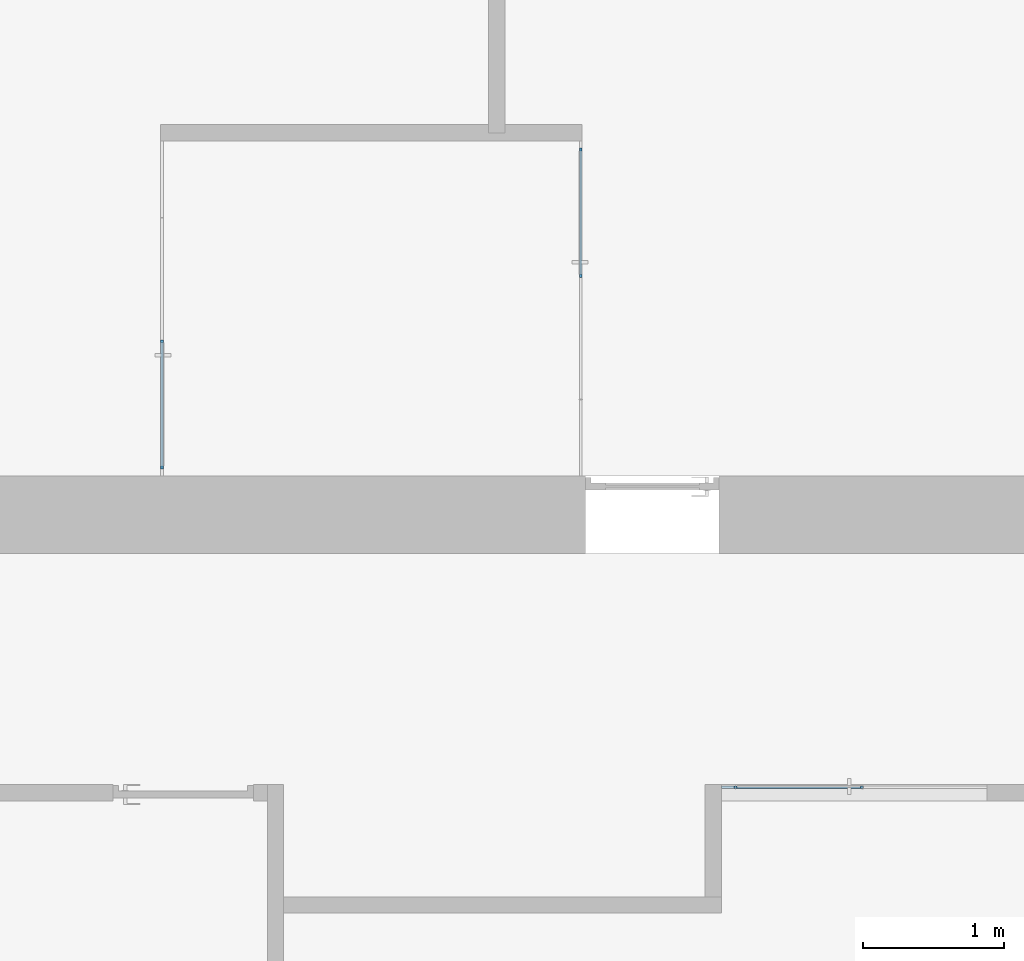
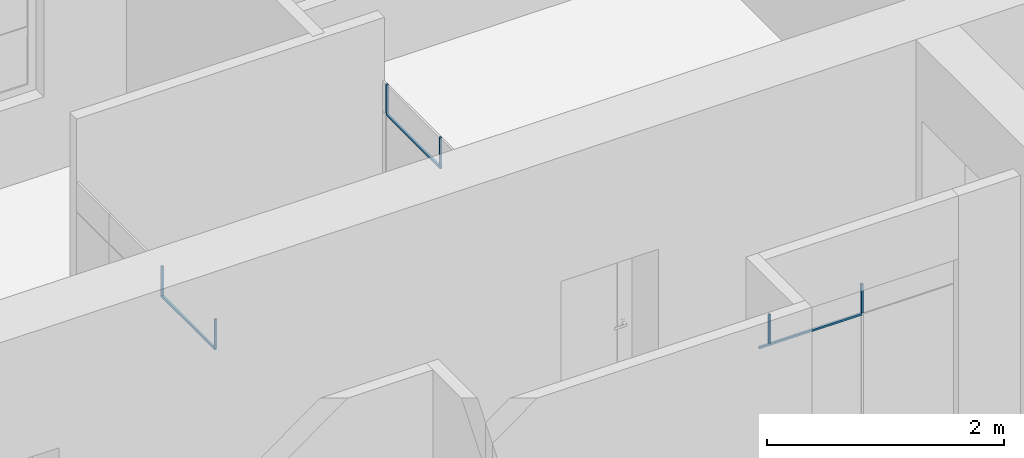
# One storey, part 10 of 66: 12 members, 3 elements without a shape of their own.
"""IFC2X3 building model written with IfcOpenShell, lengths in millimetres."""

import ifcopenshell
import ifcopenshell.guid

model = None  # the IFC model being written
_history = None  # IfcOwnerHistory: only IFC2X3 demands one
_inside = {}  # id of a spatial element -> (the spatial element, [elements in it])
_under = {}  # id of a project, library or spatial element -> (it, [spatial elements below it])
_declared = {}  # id of a project -> (the project, [libraries it declares])
_typed = {}  # id of a type object -> (the type object, [elements of that type])
_made_of = {}  # id of a material, layer set ... -> (it, [elements and type objects made of it])


def new_model(schema):
    """Start an empty IFC model of exactly this schema.

    Asked for "IFC4X3", IfcOpenShell would pick the latest addendum, in which some entities
    have other attributes; the version numbers below select the first issue.
    IFC2X3 requires an IfcOwnerHistory on every rooted entity: one is made here for all.
    """
    global model, _history
    if schema == "IFC4X3":
        model = ifcopenshell.file(schema_version=(4, 3, 0, 0))
    else:
        model = ifcopenshell.file(schema=schema)
    _inside.clear()
    _under.clear()
    _declared.clear()
    _typed.clear()
    _made_of.clear()
    _history = None
    if model.schema == "IFC2X3":
        org = make("IfcOrganization", Name="unknown")
        user = make(
            "IfcPersonAndOrganization",
            ThePerson=make("IfcPerson", FamilyName="unknown"),
            TheOrganization=org,
        )
        app = make(
            "IfcApplication",
            ApplicationDeveloper=org,
            Version="unknown",
            ApplicationFullName="unknown",
            ApplicationIdentifier="unknown",
        )
        _history = make(
            "IfcOwnerHistory",
            OwningUser=user,
            OwningApplication=app,
            ChangeAction="ADDED",
            CreationDate=0,
        )
    return model


def make(cls, **values):
    """One entity of the class cls with the attributes given. An attribute that is None is left unset."""
    return model.create_entity(
        cls, **{name: value for name, value in values.items() if value is not None}
    )


def entity(cls, *values):
    """Any entity or typed value of the class cls, its attributes in the order of the schema. None: left unset."""
    e = model.create_entity(cls)
    for i, value in enumerate(values):
        if value is not None:
            e[i] = value
    return e


def rooted(cls, **values):
    """An entity with a GlobalId (a new one), such as an element, a storey or a relation."""
    return make(cls, GlobalId=ifcopenshell.guid.new(), OwnerHistory=_history, **values)


def si_unit(unit_type, name, prefix=None):
    """IfcSIUnit, for example si_unit("LENGTHUNIT", "METRE", prefix="MILLI")."""
    return make("IfcSIUnit", UnitType=unit_type, Prefix=prefix, Name=name)


def converted_unit(unit_type, name, factor, base, dimensions=None, offset=None):
    """IfcConversionBasedUnit, such as the inch: factor (a typed value) times the base unit."""
    return make(
        "IfcConversionBasedUnit"
        if offset is None
        else "IfcConversionBasedUnitWithOffset",
        ConversionOffset=offset,
        Dimensions=None
        if dimensions is None
        else entity("IfcDimensionalExponents", *dimensions),
        UnitType=unit_type,
        Name=name,
        ConversionFactor=make(
            "IfcMeasureWithUnit", ValueComponent=factor, UnitComponent=base
        ),
    )


def derived_unit(unit_type, elements):
    """IfcDerivedUnit: a product of units, each with its exponent."""
    return make(
        "IfcDerivedUnit",
        Elements=[
            make("IfcDerivedUnitElement", Unit=unit, Exponent=power)
            for unit, power in elements
        ],
        UnitType=unit_type,
    )


def assignment(units):
    """IfcUnitAssignment: the units of a project."""
    return None if units is None else make("IfcUnitAssignment", Units=units)


def point(xyz):
    """IfcCartesianPoint."""
    return None if xyz is None else make("IfcCartesianPoint", Coordinates=xyz)


def direction(xyz):
    """IfcDirection."""
    return None if xyz is None else make("IfcDirection", DirectionRatios=xyz)


def frame(location, z_axis=None, x_axis=None):
    """IfcAxis2Placement3D, a coordinate frame: its origin and axes. An axis left out is left unset."""
    return make(
        "IfcAxis2Placement3D",
        Location=point(location),
        Axis=direction(z_axis),
        RefDirection=direction(x_axis),
    )


def frame_2d(location, x_axis=None):
    """IfcAxis2Placement2D, a coordinate frame in the plane: its origin and x axis."""
    return make(
        "IfcAxis2Placement2D", Location=point(location), RefDirection=direction(x_axis)
    )


def origin():
    """The frame at (0, 0, 0) with its axes left unset."""
    return frame((0.0, 0.0, 0.0))


def origin_2d_with_axis():
    """The frame at (0, 0) in the plane with the x axis (1, 0) written out."""
    return frame_2d((0.0, 0.0), x_axis=(1.0, 0.0))


def place(relative_to, where):
    """IfcLocalPlacement: puts the frame where relative to a parent placement (None: the world)."""
    return make(
        "IfcLocalPlacement", PlacementRelTo=relative_to, RelativePlacement=where
    )


def context(
    kind, dimensions, precision=None, world=None, true_north=None, identifier=None
):
    """IfcGeometricRepresentationContext, for example the 3D "Model" context."""
    return make(
        "IfcGeometricRepresentationContext",
        ContextIdentifier=identifier,
        ContextType=kind,
        CoordinateSpaceDimension=dimensions,
        Precision=precision,
        WorldCoordinateSystem=world,
        TrueNorth=true_north,
    )


def subcontext(parent, identifier, kind, view, scale=None):
    """IfcGeometricRepresentationSubContext, for example "Body" below "Model"."""
    return make(
        "IfcGeometricRepresentationSubContext",
        ContextIdentifier=identifier,
        ContextType=kind,
        ParentContext=parent,
        TargetScale=scale,
        TargetView=view,
    )


def project(units=None, contexts=None):
    """IfcProject with its units and contexts."""
    return rooted(
        "IfcProject",
        Name="project",
        RepresentationContexts=contexts,
        UnitsInContext=assignment(units),
    )


def spatial(cls, under=None, at=None, **own):
    """A site, building, storey or space (cls), placed at a placement, below another one or the project."""
    s = rooted(cls, ObjectPlacement=at, **own)
    if under is not None:
        _under.setdefault(under.id(), (under, []))[1].append(s)
    return s


def profile(cls, at=None, kind="AREA", **sizes):
    """A parametric profile (cls). Its sizes go by their IFC names, for example OverallWidth=200.0."""
    return make(cls, ProfileType=kind, Position=at, **sizes)


def rectangle(**sizes):
    """IfcRectangleProfileDef."""
    return profile("IfcRectangleProfileDef", **sizes)


def extrude(swept, where, along, depth):
    """IfcExtrudedAreaSolid: the profile swept, set in the frame where, extruded along a direction by depth."""
    return make(
        "IfcExtrudedAreaSolid",
        SweptArea=swept,
        Position=where,
        ExtrudedDirection=direction(along),
        Depth=depth,
    )


def shape(context_of_items, identifier, shape_type, items):
    """IfcShapeRepresentation: the items that make up one representation, for example the "Body"."""
    return make(
        "IfcShapeRepresentation",
        ContextOfItems=context_of_items,
        RepresentationIdentifier=identifier,
        RepresentationType=shape_type,
        Items=items,
    )


def source(mapping_origin, context_of_items, identifier, shape_type, items):
    """IfcRepresentationMap: a shape defined once, which mapped items show again and again."""
    return make(
        "IfcRepresentationMap",
        MappingOrigin=mapping_origin,
        MappedRepresentation=shape(context_of_items, identifier, shape_type, items),
    )


def transform(
    local_origin,
    x_axis=None,
    y_axis=None,
    z_axis=None,
    scale=None,
    scale2=None,
    scale3=None,
    uniform=True,
):
    """IfcCartesianTransformationOperator3D, or its non-uniform kind. x_axis, y_axis, z_axis: its Axis1, 2, 3."""
    if uniform:
        return make(
            "IfcCartesianTransformationOperator3D",
            Axis1=direction(x_axis),
            Axis2=direction(y_axis),
            LocalOrigin=point(local_origin),
            Scale=scale,
            Axis3=direction(z_axis),
        )
    return make(
        "IfcCartesianTransformationOperator3DnonUniform",
        Axis1=direction(x_axis),
        Axis2=direction(y_axis),
        LocalOrigin=point(local_origin),
        Scale=scale,
        Axis3=direction(z_axis),
        Scale2=scale2,
        Scale3=scale3,
    )


def mapped(mapping_source, mapping_target):
    """IfcMappedItem: shows the shape of a source again, moved by a transform."""
    return make(
        "IfcMappedItem", MappingSource=mapping_source, MappingTarget=mapping_target
    )


def material(Name=None, Category=None):
    """IfcMaterial."""
    return make("IfcMaterial", Name=Name, Category=Category)


def made_of(thing, what):
    """Note that an element or type object is made of a material, layer set ...; save() writes the relation."""
    if what is not None:
        _made_of.setdefault(what.id(), (what, []))[1].append(thing)
    return thing


def type_object(cls, material=None, **own):
    """A type object (cls), such as IfcWallType, which elements share."""
    return made_of(rooted(cls, **own), material)


def type_shapes(of_type, sources):
    """Give a type object the sources (RepresentationMaps) that its elements show as mapped items."""
    of_type.RepresentationMaps = sources


def element(
    cls,
    number,
    at=None,
    inside=None,
    cuts=None,
    type_object=None,
    material=None,
    context=None,
    identifier="Body",
    shape_type=None,
    held_by="IfcProductDefinitionShape",
    body=None,
    shapes=None,
    **own,
):
    """One element of the class cls, such as IfcWall. Its Tag is "e" and its number.

    at: its placement. inside: the storey or other place that contains it. cuts: it is an
    opening in that element (IfcRelVoidsElement). A single representation is given by context,
    identifier, shape_type and body (its items); several are given by shapes. held_by: the class
    of the entity that holds the representations. save() writes the other relations.
    """
    e = rooted(cls, Tag="e%d" % number, ObjectPlacement=at, **own)
    if body is not None:
        shapes = [shape(context, identifier, shape_type, body)]
    if shapes is not None:
        e.Representation = make(held_by, Representations=shapes)
    if inside is not None:
        _inside.setdefault(inside.id(), (inside, []))[1].append(e)
    if cuts is not None:
        rooted(
            "IfcRelVoidsElement", RelatingBuildingElement=cuts, RelatedOpeningElement=e
        )
    if type_object is not None:
        _typed.setdefault(type_object.id(), (type_object, []))[1].append(e)
    return made_of(e, material)


def aggregate(whole, parts):
    """IfcRelAggregates: a whole, such as a stair, and the parts it consists of."""
    return rooted("IfcRelAggregates", RelatingObject=whole, RelatedObjects=parts)


def save(model, path):
    """Write the relations noted so far, then the file.

    IfcRelAggregates (storeys below a building ...), IfcRelContainedInSpatialStructure (elements
    in a storey), IfcRelDefinesByType, IfcRelAssociatesMaterial and IfcRelDeclares: one each for
    every whole, place, type object, material and project.
    """
    for whole, parts in _under.values():
        aggregate(whole, parts)
    for where, things in _inside.values():
        rooted(
            "IfcRelContainedInSpatialStructure",
            RelatedElements=things,
            RelatingStructure=where,
        )
    for kind, things in _typed.values():
        rooted("IfcRelDefinesByType", RelatedObjects=things, RelatingType=kind)
    for what, things in _made_of.values():
        rooted("IfcRelAssociatesMaterial", RelatedObjects=things, RelatingMaterial=what)
    for by, libraries in _declared.values():
        rooted("IfcRelDeclares", RelatingContext=by, RelatedDefinitions=libraries)
    model.write(path)


model = new_model("IFC2X3")

# Units and contexts
model_context = context("Model", 3, precision=0.01, world=origin(), true_north=direction((6.12303176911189e-17, 1.0)))
body_context = subcontext(model_context, "Body", "Model", "MODEL_VIEW")
ifc_project = project(units=[si_unit("LENGTHUNIT", "METRE", prefix="MILLI"), si_unit("AREAUNIT", "SQUARE_METRE"), si_unit("VOLUMEUNIT", "CUBIC_METRE"), converted_unit("PLANEANGLEUNIT", "DEGREE", entity("IfcRatioMeasure", 0.0174532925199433), si_unit("PLANEANGLEUNIT", "RADIAN"), dimensions=[0, 0, 0, 0, 0, 0, 0]), si_unit("MASSUNIT", "GRAM", prefix="KILO"), derived_unit("MASSDENSITYUNIT", [(si_unit("MASSUNIT", "GRAM", prefix="KILO"), 1), (si_unit("LENGTHUNIT", "METRE"), -3)]), si_unit("TIMEUNIT", "SECOND"), si_unit("FREQUENCYUNIT", "HERTZ"), si_unit("THERMODYNAMICTEMPERATUREUNIT", "DEGREE_CELSIUS"), derived_unit("THERMALTRANSMITTANCEUNIT", [(si_unit("MASSUNIT", "GRAM", prefix="KILO"), 1), (si_unit("THERMODYNAMICTEMPERATUREUNIT", "KELVIN"), -1), (si_unit("TIMEUNIT", "SECOND"), -3)]), derived_unit("VOLUMETRICFLOWRATEUNIT", [(si_unit("LENGTHUNIT", "METRE"), 3), (si_unit("TIMEUNIT", "SECOND"), -1)]), si_unit("ELECTRICCURRENTUNIT", "AMPERE"), si_unit("ELECTRICVOLTAGEUNIT", "VOLT"), si_unit("POWERUNIT", "WATT"), si_unit("FORCEUNIT", "NEWTON", prefix="KILO"), si_unit("ILLUMINANCEUNIT", "LUX"), si_unit("LUMINOUSFLUXUNIT", "LUMEN"), si_unit("LUMINOUSINTENSITYUNIT", "CANDELA"), derived_unit("USERDEFINED", [(si_unit("MASSUNIT", "GRAM", prefix="KILO"), -1), (si_unit("LENGTHUNIT", "METRE"), -2), (si_unit("TIMEUNIT", "SECOND"), 3), (si_unit("LUMINOUSFLUXUNIT", "LUMEN"), 1)]), derived_unit("LINEARVELOCITYUNIT", [(si_unit("LENGTHUNIT", "METRE"), 1), (si_unit("TIMEUNIT", "SECOND"), -1)]), si_unit("PRESSUREUNIT", "PASCAL"), derived_unit("USERDEFINED", [(si_unit("LENGTHUNIT", "METRE"), -2), (si_unit("MASSUNIT", "GRAM", prefix="KILO"), 1), (si_unit("TIMEUNIT", "SECOND"), -2)])], contexts=[model_context])

# Site, building, storey
site_placement = place(None, frame((-151.875543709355, 2715.0, 0.0)))
site = spatial("IfcSite", under=ifc_project, at=site_placement, Name="Surface", CompositionType="ELEMENT")
building_placement = place(site_placement, origin())
building = spatial("IfcBuilding", under=site, at=building_placement, CompositionType="ELEMENT")
storey_placement = place(building_placement, frame((0.0, 0.0, 3350.0)))
storey = spatial("IfcBuildingStorey", under=building, at=storey_placement, Name="2 korrus", CompositionType="ELEMENT", Elevation=3350.00000000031)

# Curtain wall, members
curtain_wall_type_1 = type_object("IfcCurtainWallType", Name="Curtain Wall:Klaassein KLS-11", PredefinedType="NOTDEFINED")
curtain_wall_1_placement = place(storey_placement, frame((0.0, 0.0, -3350.0)))
curtain_wall_1 = element("IfcCurtainWall", 1, at=curtain_wall_1_placement, inside=storey, type_object=curtain_wall_type_1, Name="Curtain Wall:Klaassein KLS-11", ObjectType="Curtain Wall:Klaassein KLS-11")
ifc_material = material(Name="__Uks_hele tamm")
member_type_1 = type_object("IfcMemberType", Name="20 x 20mm", PredefinedType="MEMBER")
shared_shape_1 = source(origin(), body_context, "Body", "SweptSolid", [
    extrude(rectangle(XDim=20.0, YDim=20.0, at=origin_2d_with_axis()), frame((0.0, 0.0, -300.0), z_axis=(0.0, 0.0, 1.0), x_axis=(0.0, -1.0, 0.0)), (0.0, 0.0, 1.0), 299.999999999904),
])
type_shapes(member_type_1, [shared_shape_1])
member_1_placement = place(storey_placement, frame((29055.564726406, 4345.04493399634, 2100.0), z_axis=(0.0, 0.0, -1.0), x_axis=(-1.0, 0.0, 0.0)))
member_1 = element("IfcMember", 2, at=member_1_placement, type_object=member_type_1, material=ifc_material, Name="Rectangular Mullion:20 x 20mm", ObjectType="20 x 20mm", context=body_context, shape_type="MappedRepresentation", body=[
    mapped(shared_shape_1, transform((0.0, 0.0, 0.0), scale=1.0)),
])
member_2_placement = place(storey_placement, frame((28155.564726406, 4345.04493399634, 2100.0), z_axis=(0.0, 0.0, -1.0), x_axis=(-1.0, 0.0, 0.0)))
member_2 = element("IfcMember", 3, at=member_2_placement, type_object=member_type_1, material=ifc_material, Name="Rectangular Mullion:20 x 20mm", ObjectType="20 x 20mm", context=body_context, shape_type="MappedRepresentation", body=[
    mapped(shared_shape_1, transform((0.0, 0.0, 0.0), scale=1.0)),
])
member_3_placement = place(storey_placement, frame((29054.0171590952, 4345.04493399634, 2100.0), z_axis=(0.0, 0.0, -1.0), x_axis=(-1.0, 0.0, 0.0)))
member_3 = element("IfcMember", 4, at=member_3_placement, type_object=member_type_1, material=ifc_material, Name="Rectangular Mullion:20 x 20mm", ObjectType="20 x 20mm", context=body_context, shape_type="MappedRepresentation", body=[
    mapped(shared_shape_1, transform((0.0, 0.0, 0.0), scale=1.0)),
])
member_4_placement = place(storey_placement, frame((28154.0171590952, 4345.04493399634, 2100.0), z_axis=(0.0, 0.0, -1.0), x_axis=(-1.0, 0.0, 0.0)))
member_4 = element("IfcMember", 5, at=member_4_placement, type_object=member_type_1, material=ifc_material, Name="Rectangular Mullion:20 x 20mm", ObjectType="20 x 20mm", context=body_context, shape_type="MappedRepresentation", body=[
    mapped(shared_shape_1, transform((0.0, 0.0, 0.0), scale=1.0)),
])
member_type_2 = type_object("IfcMemberType", Name="20 x 20mm", PredefinedType="MEMBER")
shared_shape_2 = source(origin(), body_context, "Body", "SweptSolid", [
    extrude(rectangle(XDim=20.0, YDim=20.0, at=origin_2d_with_axis()), frame((0.0, 0.0, -898.452432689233), z_axis=(0.0, 0.0, 1.0), x_axis=(0.0, -1.0, 0.0)), (0.0, 0.0, 1.0), 898.452432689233),
])
type_shapes(member_type_2, [shared_shape_2])
member_5_placement = place(storey_placement, frame((28155.564726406, 4345.04493399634, 2090.0), z_axis=(-1.0, 0.0, 0.0), x_axis=(0.0, 0.0, 1.0)))
member_5 = element("IfcMember", 6, at=member_5_placement, type_object=member_type_2, material=ifc_material, Name="Rectangular Mullion:20 x 20mm", ObjectType="20 x 20mm", context=body_context, shape_type="MappedRepresentation", body=[
    mapped(shared_shape_2, transform((0.0, 0.0, 0.0), scale=1.0)),
])
member_type_3 = type_object("IfcMemberType", Name="20 x 20mm", PredefinedType="MEMBER")
shared_shape_3 = source(origin(), body_context, "Body", "SweptSolid", [
    extrude(rectangle(XDim=20.0, YDim=20.0, at=origin_2d_with_axis()), frame((0.0, 0.0, -99.9999996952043), z_axis=(0.0, 0.0, 1.0), x_axis=(0.0, -1.0, 0.0)), (0.0, 0.0, 1.0), 99.9999996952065),
])
type_shapes(member_type_3, [shared_shape_3])
member_6_placement = place(storey_placement, frame((28054.0171594, 4345.04493399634, 2090.0), z_axis=(-1.0, 0.0, 0.0), x_axis=(0.0, 0.0, 1.0)))
member_6 = element("IfcMember", 7, at=member_6_placement, type_object=member_type_3, material=ifc_material, Name="Rectangular Mullion:20 x 20mm", ObjectType="20 x 20mm", context=body_context, shape_type="MappedRepresentation", body=[
    mapped(shared_shape_3, transform((0.0, 0.0, 0.0), scale=1.0)),
])
aggregate(curtain_wall_1, [member_1, member_2, member_5, member_6, member_3, member_4])

curtain_wall_type_2 = type_object("IfcCurtainWallType", Name="Curtain Wall:Klaassein KLS-05", PredefinedType="NOTDEFINED")
curtain_wall_2_placement = place(storey_placement, frame((0.0, 0.0, -3350.0)))
curtain_wall_2 = element("IfcCurtainWall", 8, at=curtain_wall_2_placement, inside=storey, type_object=curtain_wall_type_2, Name="Curtain Wall:Klaassein KLS-05", ObjectType="Curtain Wall:Klaassein KLS-05")
member_type_4 = type_object("IfcMemberType", Name="20 x 20mm", PredefinedType="MEMBER")
shared_shape_4 = source(origin(), body_context, "Body", "SweptSolid", [
    extrude(rectangle(XDim=20.0, YDim=20.0, at=origin_2d_with_axis()), frame((0.0, 0.0, -300.0), z_axis=(0.0, 0.0, 1.0), x_axis=(0.0, -1.0, 0.0)), (0.0, 0.0, 1.0), 299.999999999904),
])
type_shapes(member_type_4, [shared_shape_4])
member_7_placement = place(storey_placement, frame((27053.2859998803, 7984.0, 2100.0), z_axis=(0.0, 0.0, -1.0), x_axis=(0.0, 1.0, 0.0)))
member_7 = element("IfcMember", 9, at=member_7_placement, type_object=member_type_4, material=ifc_material, Name="Rectangular Mullion:20 x 20mm", ObjectType="20 x 20mm", context=body_context, shape_type="MappedRepresentation", body=[
    mapped(shared_shape_4, transform((0.0, 0.0, 0.0), scale=1.0)),
])
member_8_placement = place(storey_placement, frame((27053.2859998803, 8884.0, 2100.0), z_axis=(0.0, 0.0, -1.0), x_axis=(0.0, 1.0, 0.0)))
member_8 = element("IfcMember", 10, at=member_8_placement, type_object=member_type_4, material=ifc_material, Name="Rectangular Mullion:20 x 20mm", ObjectType="20 x 20mm", context=body_context, shape_type="MappedRepresentation", body=[
    mapped(shared_shape_4, transform((0.0, 0.0, 0.0), scale=1.0)),
])

curtain_wall_3_placement = place(storey_placement, frame((0.0, 0.0, -3350.0)))
curtain_wall_3 = element("IfcCurtainWall", 11, at=curtain_wall_3_placement, inside=storey, type_object=curtain_wall_type_2, Name="Curtain Wall:Klaassein KLS-05", ObjectType="Curtain Wall:Klaassein KLS-05")
member_9_placement = place(storey_placement, frame((24073.28599988, 7520.0, 2100.0), z_axis=(0.0, 0.0, -1.0), x_axis=(0.0, -1.0, 0.0)))
member_9 = element("IfcMember", 12, at=member_9_placement, type_object=member_type_4, material=ifc_material, Name="Rectangular Mullion:20 x 20mm", ObjectType="20 x 20mm", context=body_context, shape_type="MappedRepresentation", body=[
    mapped(shared_shape_4, transform((0.0, 0.0, 0.0), scale=1.0)),
])
member_10_placement = place(storey_placement, frame((24073.28599988, 6620.0, 2100.0), z_axis=(0.0, 0.0, -1.0), x_axis=(0.0, -1.0, 0.0)))
member_10 = element("IfcMember", 13, at=member_10_placement, type_object=member_type_4, material=ifc_material, Name="Rectangular Mullion:20 x 20mm", ObjectType="20 x 20mm", context=body_context, shape_type="MappedRepresentation", body=[
    mapped(shared_shape_4, transform((0.0, 0.0, 0.0), scale=1.0)),
])

# Member
member_type_5 = type_object("IfcMemberType", Name="20 x 20mm", PredefinedType="MEMBER")
shared_shape_5 = source(origin(), body_context, "Body", "SweptSolid", [
    extrude(rectangle(XDim=20.0, YDim=20.0, at=origin_2d_with_axis()), frame((0.0, 0.0, -910.0), z_axis=(0.0, 0.0, 1.0), x_axis=(0.0, -1.0, 0.0)), (0.0, 0.0, 1.0), 909.999999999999),
])
type_shapes(member_type_5, [shared_shape_5])
member_11_placement = place(storey_placement, frame((27053.2859998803, 8884.0, 2090.0), z_axis=(0.0, 1.0, 0.0), x_axis=(0.0, 0.0, 1.0)))
member_11 = element("IfcMember", 14, at=member_11_placement, type_object=member_type_5, material=ifc_material, Name="Rectangular Mullion:20 x 20mm", ObjectType="20 x 20mm", context=body_context, shape_type="MappedRepresentation", body=[
    mapped(shared_shape_5, transform((0.0, 0.0, 0.0), scale=1.0)),
])

aggregate(curtain_wall_2, [member_7, member_11, member_8])

member_12_placement = place(storey_placement, frame((24073.28599988, 6620.0, 2090.0), z_axis=(0.0, -1.0, 0.0), x_axis=(0.0, 0.0, 1.0)))
member_12 = element("IfcMember", 15, at=member_12_placement, type_object=member_type_5, material=ifc_material, Name="Rectangular Mullion:20 x 20mm", ObjectType="20 x 20mm", context=body_context, shape_type="MappedRepresentation", body=[
    mapped(shared_shape_5, transform((0.0, 0.0, 0.0), scale=1.0)),
])

aggregate(curtain_wall_3, [member_9, member_12, member_10])

save(model, "model.ifc")
